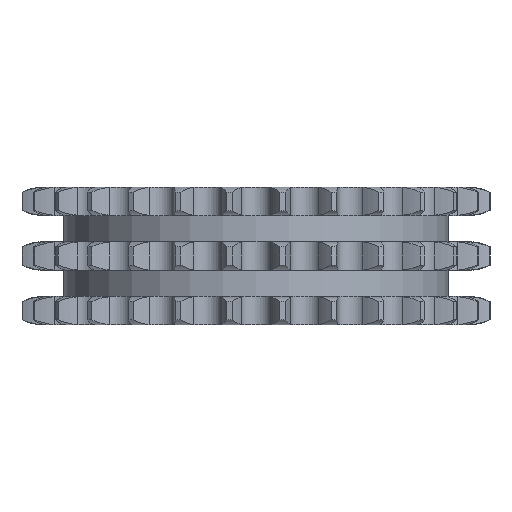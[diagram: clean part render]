
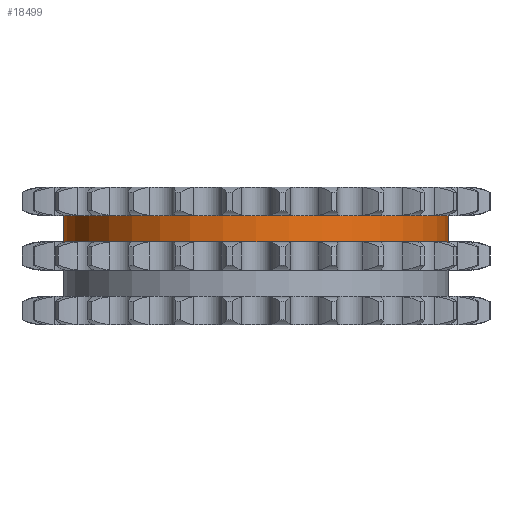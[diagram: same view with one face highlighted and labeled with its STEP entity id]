
A CAD part, left-side view. The second image highlights one B-rep face of the part: STEP entity #18499.
In plain terms, the highlighted cylindrical face has radius 48.714 mm (diameter 97.429 mm), a partial arc.
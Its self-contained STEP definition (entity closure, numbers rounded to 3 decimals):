
#3773=DIRECTION('',(0.,0.,-1.));
#3774=VECTOR('',#3773,6.65);
#3775=CARTESIAN_POINT('',(0.,48.714,10.25));
#3776=LINE('',#3775,#3774);
#3780=CARTESIAN_POINT('',(0.,0.,10.25));
#3781=DIRECTION('',(0.,0.,1.));
#3782=DIRECTION('',(0.,1.,0.));
#3783=AXIS2_PLACEMENT_3D('',#3780,#3781,#3782);
#3788=DIRECTION('',(0.,0.,-1.));
#3789=VECTOR('',#3788,6.65);
#3790=CARTESIAN_POINT('',(0.,-48.714,10.25));
#3791=LINE('',#3790,#3789);
#3795=CARTESIAN_POINT('',(0.,0.,3.6));
#3796=DIRECTION('',(0.,0.,1.));
#3797=DIRECTION('',(0.,1.,0.));
#3798=AXIS2_PLACEMENT_3D('',#3795,#3796,#3797);
#14740=CARTESIAN_POINT('',(0.,48.714,10.25));
#14741=CARTESIAN_POINT('',(0.,48.714,3.6));
#14742=VERTEX_POINT('',#14740);
#14743=VERTEX_POINT('',#14741);
#14744=CARTESIAN_POINT('',(0.,-48.714,10.25));
#14745=CARTESIAN_POINT('',(0.,-48.714,3.6));
#14746=VERTEX_POINT('',#14744);
#14747=VERTEX_POINT('',#14745);
#18487=CARTESIAN_POINT('',(0.,0.,11.275));
#18488=DIRECTION('',(0.,0.,-1.));
#18489=DIRECTION('',(0.,-1.,0.));
#18490=AXIS2_PLACEMENT_3D('',#18487,#18488,#18489);
#18491=CYLINDRICAL_SURFACE('',#18490,48.714);
#18492=ORIENTED_EDGE('',*,*,#18477,.F.);
#18493=ORIENTED_EDGE('',*,*,#18467,.T.);
#18494=ORIENTED_EDGE('',*,*,#18481,.T.);
#18496=ORIENTED_EDGE('',*,*,#18495,.F.);
#18497=EDGE_LOOP('',(#18492,#18493,#18494,#18496));
#18498=FACE_OUTER_BOUND('',#18497,.F.);
#18499=ADVANCED_FACE('',(#18498),#18491,.T.);
#3784=CIRCLE('',#3783,48.714);
#3799=CIRCLE('',#3798,48.714);
#18467=EDGE_CURVE('',#14742,#14746,#3784,.T.);
#18477=EDGE_CURVE('',#14742,#14743,#3776,.T.);
#18481=EDGE_CURVE('',#14746,#14747,#3791,.T.);
#18495=EDGE_CURVE('',#14743,#14747,#3799,.T.);
